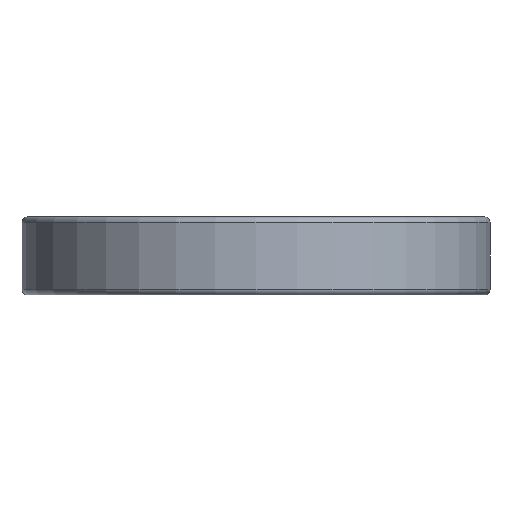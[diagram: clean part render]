
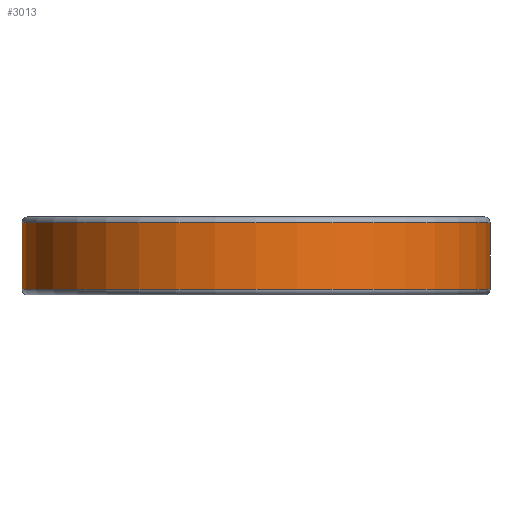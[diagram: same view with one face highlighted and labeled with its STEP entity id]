
A CAD part, front view. The second image highlights one B-rep face of the part: STEP entity #3013.
In plain terms, the highlighted cylindrical face has radius 21 mm (diameter 42 mm), a partial arc.
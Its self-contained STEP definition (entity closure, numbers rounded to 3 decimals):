
#1573 = CARTESIAN_POINT ( 'NONE',  ( 21., 0., 7. ) ) ;
#1600 = DIRECTION ( 'NONE',  ( -1., 0., 0. ) ) ;
#1739 = CARTESIAN_POINT ( 'NONE',  ( 0., 0., 7. ) ) ;
#1899 = DIRECTION ( 'NONE',  ( 0., 0., -1. ) ) ;
#1942 = AXIS2_PLACEMENT_3D ( 'NONE', #14310, #15048, #19288 ) ;
#2703 = ORIENTED_EDGE ( 'NONE', *, *, #5612, .T. ) ;
#3013 = ADVANCED_FACE ( 'NONE', ( #29012 ), #11239, .T. ) ;
#3978 = VERTEX_POINT ( 'NONE', #19168 ) ;
#5612 = EDGE_CURVE ( 'NONE', #24428, #3978, #6261, .T. ) ;
#5952 = EDGE_CURVE ( 'NONE', #3978, #13080, #29169, .T. ) ;
#6261 = CIRCLE ( 'NONE', #1942, 21. ) ;
#7211 = CARTESIAN_POINT ( 'NONE',  ( 21., 0., 6.5 ) ) ;
#7519 = DIRECTION ( 'NONE',  ( 1., 0., 0. ) ) ;
#7764 = VERTEX_POINT ( 'NONE', #28793 ) ;
#9729 = ORIENTED_EDGE ( 'NONE', *, *, #5952, .T. ) ;
#11239 = CYLINDRICAL_SURFACE ( 'NONE', #26450, 21. ) ;
#11315 = EDGE_CURVE ( 'NONE', #13080, #7764, #17260, .T. ) ;
#11438 = VECTOR ( 'NONE', #17824, 1000. ) ;
#11490 = AXIS2_PLACEMENT_3D ( 'NONE', #25443, #14578, #7519 ) ;
#13080 = VERTEX_POINT ( 'NONE', #17066 ) ;
#13961 = ORIENTED_EDGE ( 'NONE', *, *, #11315, .T. ) ;
#14310 = CARTESIAN_POINT ( 'NONE',  ( 0., 0., 6.5 ) ) ;
#14578 = DIRECTION ( 'NONE',  ( 0., 0., 1. ) ) ;
#15048 = DIRECTION ( 'NONE',  ( 0., 0., -1. ) ) ;
#15907 = VECTOR ( 'NONE', #1899, 1000. ) ;
#16596 = ORIENTED_EDGE ( 'NONE', *, *, #27970, .F. ) ;
#17066 = CARTESIAN_POINT ( 'NONE',  ( -21., 0., 0.5 ) ) ;
#17260 = CIRCLE ( 'NONE', #11490, 21. ) ;
#17824 = DIRECTION ( 'NONE',  ( 0., 0., -1. ) ) ;
#19168 = CARTESIAN_POINT ( 'NONE',  ( -21., 0., 6.5 ) ) ;
#19288 = DIRECTION ( 'NONE',  ( 1., 0., 0. ) ) ;
#22214 = LINE ( 'NONE', #1573, #11438 ) ;
#24428 = VERTEX_POINT ( 'NONE', #7211 ) ;
#24651 = DIRECTION ( 'NONE',  ( 0., 0., -1. ) ) ;
#25443 = CARTESIAN_POINT ( 'NONE',  ( 0., 0., 0.5 ) ) ;
#26450 = AXIS2_PLACEMENT_3D ( 'NONE', #1739, #24651, #1600 ) ;
#26761 = CARTESIAN_POINT ( 'NONE',  ( -21., 0., 7. ) ) ;
#27970 = EDGE_CURVE ( 'NONE', #24428, #7764, #22214, .T. ) ;
#28793 = CARTESIAN_POINT ( 'NONE',  ( 21., 0., 0.5 ) ) ;
#29012 = FACE_OUTER_BOUND ( 'NONE', #29177, .T. ) ;
#29169 = LINE ( 'NONE', #26761, #15907 ) ;
#29177 = EDGE_LOOP ( 'NONE', ( #16596, #2703, #9729, #13961 ) ) ;
